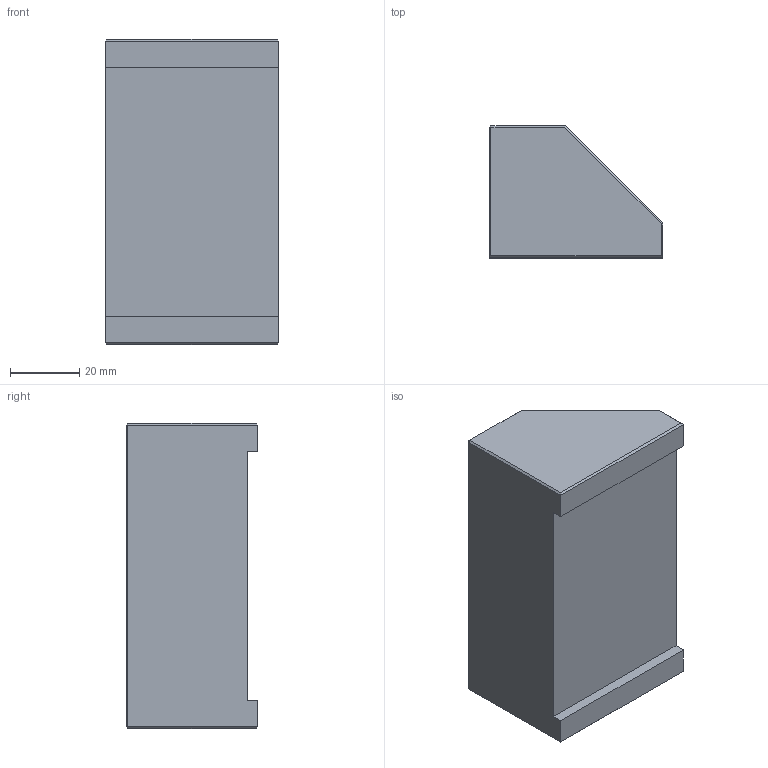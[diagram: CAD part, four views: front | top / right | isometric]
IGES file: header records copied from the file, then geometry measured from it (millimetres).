
Start section: SolidWorks IGES file using analytic representation for surfaces
Global section: file name: J:\Scolaire\BAC Pro\Epreuves professionnelles\E2\CD\Dossier Examinateurs\Dessins CN 5 axes\IGES\mors mobile.IGS; native system: SolidWorks 2005 by SolidWorks Corporation; preprocessor: SolidWorks 2005 by SolidWorks Corporation; author: Famille Couzi; date: 091204.123512; units: millimetre
Bounding box: 50 x 38 x 88 mm (x, y, z)
Surface area: 17917.3 mm2 (no closed solid volume)
Topology: 0 solids, 0 shells, 37 faces, 284 edges, 284 vertices
Faces by surface type: bspline 33, revolution 4
